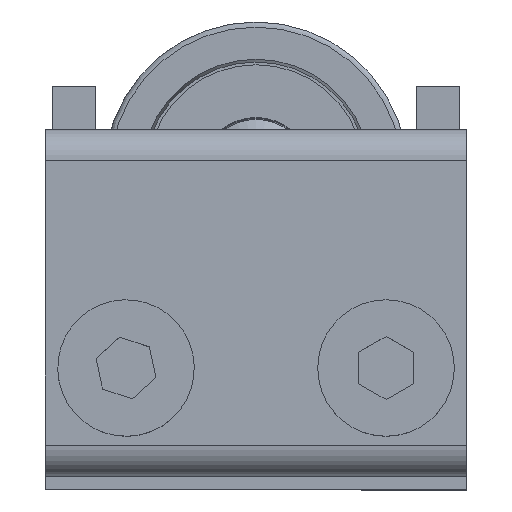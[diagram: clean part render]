
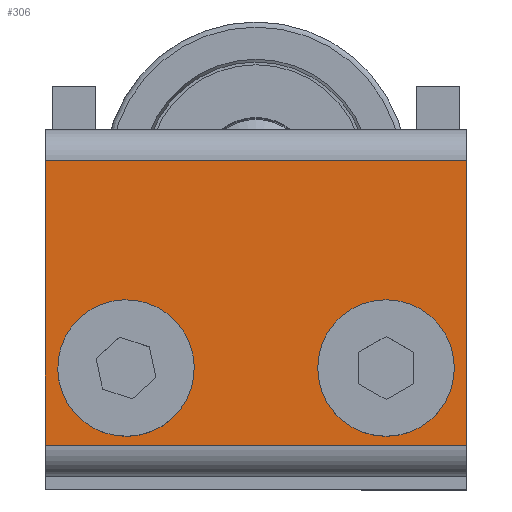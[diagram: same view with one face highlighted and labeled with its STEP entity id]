
A CAD part, top view. The second image highlights one B-rep face of the part: STEP entity #306.
In plain terms, the highlighted planar face has unit normal (0, 0, 1) as drawn and (0, 0, -1) by its records, which use the part's own axes.
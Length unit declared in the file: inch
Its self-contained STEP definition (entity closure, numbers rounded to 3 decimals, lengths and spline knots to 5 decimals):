
#5=DIRECTION('',(0.,-1.,0.));
#6=VECTOR('',#5,0.82);
#7=CARTESIAN_POINT('',(-0.6075,0.41,-0.18));
#8=LINE('',#7,#6);
#31=DIRECTION('',(0.,-1.,0.));
#32=VECTOR('',#31,0.82);
#33=CARTESIAN_POINT('',(0.6075,0.41,-0.18));
#34=LINE('',#33,#32);
#35=CARTESIAN_POINT('',(0.375,-0.188,-0.18));
#36=DIRECTION('',(0.,0.,1.));
#37=DIRECTION('',(1.,0.,0.));
#38=AXIS2_PLACEMENT_3D('',#35,#36,#37);
#40=CARTESIAN_POINT('',(0.375,-0.188,-0.18));
#41=DIRECTION('',(0.,0.,1.));
#42=DIRECTION('',(-1.,0.,0.));
#43=AXIS2_PLACEMENT_3D('',#40,#41,#42);
#45=CARTESIAN_POINT('',(-0.375,-0.188,-0.18));
#46=DIRECTION('',(0.,0.,1.));
#47=DIRECTION('',(1.,0.,0.));
#48=AXIS2_PLACEMENT_3D('',#45,#46,#47);
#50=CARTESIAN_POINT('',(-0.375,-0.188,-0.18));
#51=DIRECTION('',(0.,0.,1.));
#52=DIRECTION('',(-1.,0.,0.));
#53=AXIS2_PLACEMENT_3D('',#50,#51,#52);
#153=DIRECTION('',(-1.,0.,0.));
#154=VECTOR('',#153,1.215);
#155=CARTESIAN_POINT('',(0.6075,0.41,-0.18));
#156=LINE('',#155,#154);
#173=DIRECTION('',(1.,0.,0.));
#174=VECTOR('',#173,1.215);
#175=CARTESIAN_POINT('',(-0.6075,-0.41,-0.18));
#176=LINE('',#175,#174);
#198=CARTESIAN_POINT('',(-0.5,-0.188,-0.18));
#200=VERTEX_POINT('',#198);
#202=CARTESIAN_POINT('',(-0.25,-0.188,-0.18));
#204=VERTEX_POINT('',#202);
#206=CARTESIAN_POINT('',(-0.6075,0.41,-0.18));
#208=VERTEX_POINT('',#206);
#213=CARTESIAN_POINT('',(-0.6075,-0.41,-0.18));
#214=CARTESIAN_POINT('',(0.6075,-0.41,-0.18));
#215=VERTEX_POINT('',#213);
#216=VERTEX_POINT('',#214);
#217=CARTESIAN_POINT('',(0.25,-0.188,-0.18));
#218=VERTEX_POINT('',#217);
#219=CARTESIAN_POINT('',(0.5,-0.188,-0.18));
#220=VERTEX_POINT('',#219);
#221=CARTESIAN_POINT('',(0.6075,0.41,-0.18));
#222=VERTEX_POINT('',#221);
#280=CARTESIAN_POINT('',(0.6075,0.5,-0.18));
#281=DIRECTION('',(0.,0.,1.));
#282=DIRECTION('',(0.,-1.,0.));
#283=AXIS2_PLACEMENT_3D('',#280,#281,#282);
#284=PLANE('',#283);
#286=ORIENTED_EDGE('',*,*,#285,.F.);
#288=ORIENTED_EDGE('',*,*,#287,.T.);
#289=ORIENTED_EDGE('',*,*,#258,.T.);
#291=ORIENTED_EDGE('',*,*,#290,.T.);
#292=EDGE_LOOP('',(#286,#288,#289,#291));
#293=FACE_OUTER_BOUND('',#292,.F.);
#295=ORIENTED_EDGE('',*,*,#294,.F.);
#297=ORIENTED_EDGE('',*,*,#296,.F.);
#298=EDGE_LOOP('',(#295,#297));
#299=FACE_BOUND('',#298,.F.);
#301=ORIENTED_EDGE('',*,*,#300,.F.);
#303=ORIENTED_EDGE('',*,*,#302,.F.);
#304=EDGE_LOOP('',(#301,#303));
#305=FACE_BOUND('',#304,.F.);
#39=CIRCLE('',#38,0.125);
#44=CIRCLE('',#43,0.125);
#49=CIRCLE('',#48,0.125);
#54=CIRCLE('',#53,0.125);
#258=EDGE_CURVE('',#208,#215,#8,.T.);
#285=EDGE_CURVE('',#222,#216,#34,.T.);
#287=EDGE_CURVE('',#222,#208,#156,.T.);
#290=EDGE_CURVE('',#215,#216,#176,.T.);
#294=EDGE_CURVE('',#220,#218,#39,.T.);
#296=EDGE_CURVE('',#218,#220,#44,.T.);
#300=EDGE_CURVE('',#204,#200,#49,.T.);
#302=EDGE_CURVE('',#200,#204,#54,.T.);
#306=ADVANCED_FACE('',(#293,#299,#305),#284,.F.);
